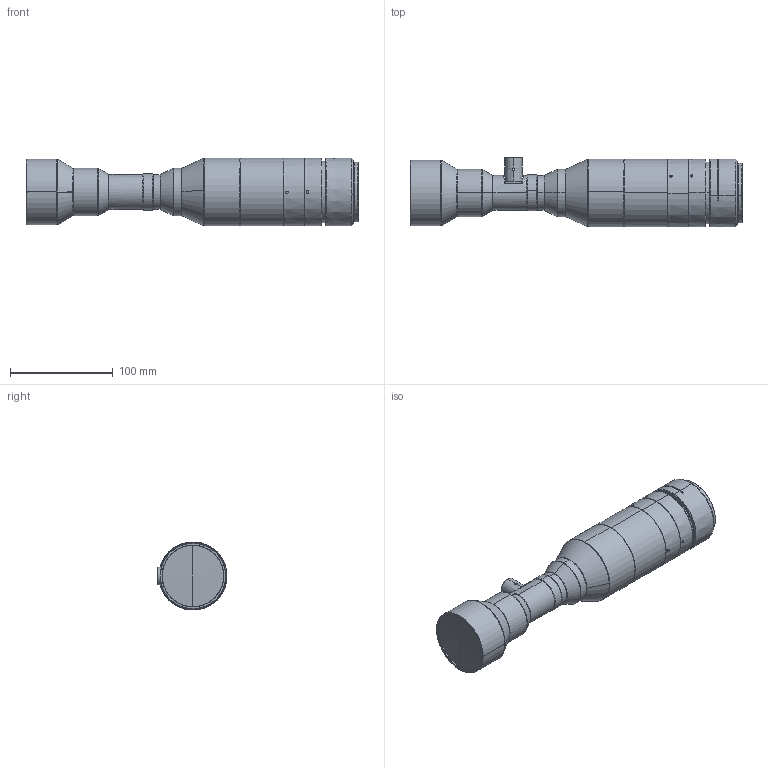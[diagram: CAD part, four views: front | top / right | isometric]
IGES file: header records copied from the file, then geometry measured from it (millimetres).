
Start section: SolidWorks IGES file using analytic representation for surfaces
Bounding box: 322.42 x 67.9 x 66 mm (x, y, z)
Surface area: 69049.3 mm2 (no closed solid volume)
Topology: 0 solids, 0 shells, 249 faces, 4512 edges, 4498 vertices
Faces by surface type: revolution 178, bspline 71
